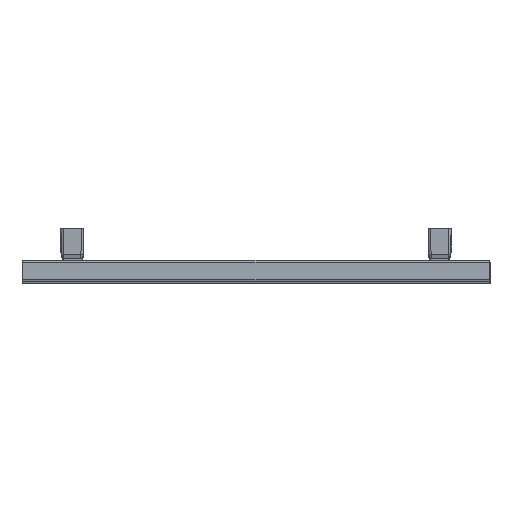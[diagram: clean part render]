
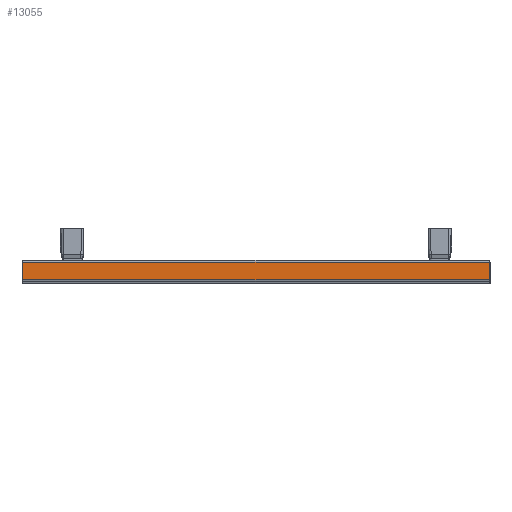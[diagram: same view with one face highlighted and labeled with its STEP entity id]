
A CAD part, top view. The second image highlights one B-rep face of the part: STEP entity #13055.
In plain terms, the highlighted planar face has unit normal (0, 0, 1).
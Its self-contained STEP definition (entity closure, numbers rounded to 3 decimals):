
#12310=CARTESIAN_POINT('',(-204.,-12.,1700.0));
#12311=VERTEX_POINT('',#12310);
#12378=CARTESIAN_POINT('',(-204.,12.,1700.0));
#12379=VERTEX_POINT('',#12378);
#12396=CARTESIAN_POINT('',(-204.,-12.,1700.0));
#12397=DIRECTION('',(0.0,1.0,0.0));
#12398=VECTOR('',#12397,24.);
#12399=LINE('',#12396,#12398);
#12400=EDGE_CURVE('',#12311,#12379,#12399,.T.);
#12550=CARTESIAN_POINT('',(444.,12.,1700.0));
#12551=VERTEX_POINT('',#12550);
#12559=CARTESIAN_POINT('',(444.,-12.,1700.0));
#12560=VERTEX_POINT('',#12559);
#12561=CARTESIAN_POINT('',(444.,12.,1700.0));
#12562=DIRECTION('',(0.0,-1.0,0.0));
#12563=VECTOR('',#12562,24.0);
#12564=LINE('',#12561,#12563);
#12565=EDGE_CURVE('',#12551,#12560,#12564,.T.);
#13027=CARTESIAN_POINT('',(444.,-12.,1700.0));
#13028=DIRECTION('',(-1.0,0.0,0.0));
#13029=VECTOR('',#13028,648.0);
#13030=LINE('',#13027,#13029);
#13031=EDGE_CURVE('',#12560,#12311,#13030,.T.);
#13039=CARTESIAN_POINT('',(120.,-12.,1700.0));
#13040=DIRECTION('',(0.0,0.0,1.0));
#13041=DIRECTION('',(-1.0,0.0,0.0));
#13042=AXIS2_PLACEMENT_3D('',#13039,#13040,#13041);
#13043=PLANE('',#13042);
#13044=CARTESIAN_POINT('',(444.,12.,1700.0));
#13045=DIRECTION('',(-1.0,0.0,0.0));
#13046=VECTOR('',#13045,648.0);
#13047=LINE('',#13044,#13046);
#13048=EDGE_CURVE('',#12551,#12379,#13047,.T.);
#13049=ORIENTED_EDGE('',*,*,#13048,.T.);
#13050=ORIENTED_EDGE('',*,*,#12400,.F.);
#13051=ORIENTED_EDGE('',*,*,#13031,.F.);
#13052=ORIENTED_EDGE('',*,*,#12565,.F.);
#13053=EDGE_LOOP('',(#13049,#13050,#13051,#13052));
#13054=FACE_OUTER_BOUND('',#13053,.T.);
#13055=ADVANCED_FACE('',(#13054),#13043,.T.);
